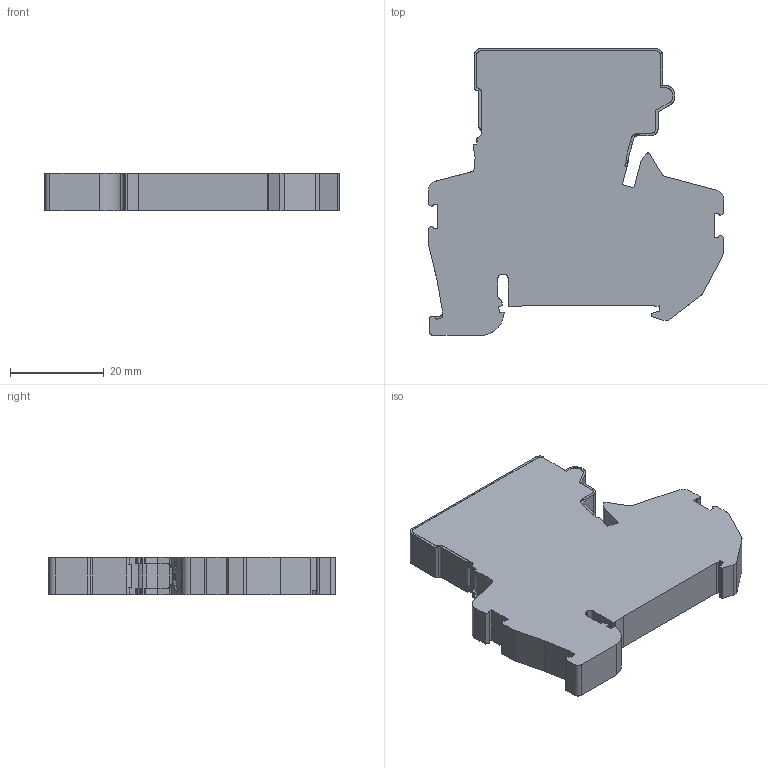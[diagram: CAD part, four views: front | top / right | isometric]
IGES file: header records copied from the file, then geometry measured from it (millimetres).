
Start section: SolidWorks IGES file using analytic representation for surfaces
Global section: file name: Q:\GROUPS\BR_SC_JGS_WA_TECNICO\ENG\Usuarios\Rodrigob\conversão\Bornes\BTWI\BTWI I\BTWI I.IGS; native system: SolidWorks 2016; preprocessor: SolidWorks 2016; author: rodrigob; date: 180425.113116; units: millimetre
Bounding box: 63.11 x 61.33 x 8 mm (x, y, z)
Surface area: 8028.6 mm2 (no closed solid volume)
Topology: 0 solids, 0 shells, 262 faces, 2242 edges, 2238 vertices
Faces by surface type: bspline 168, revolution 94
